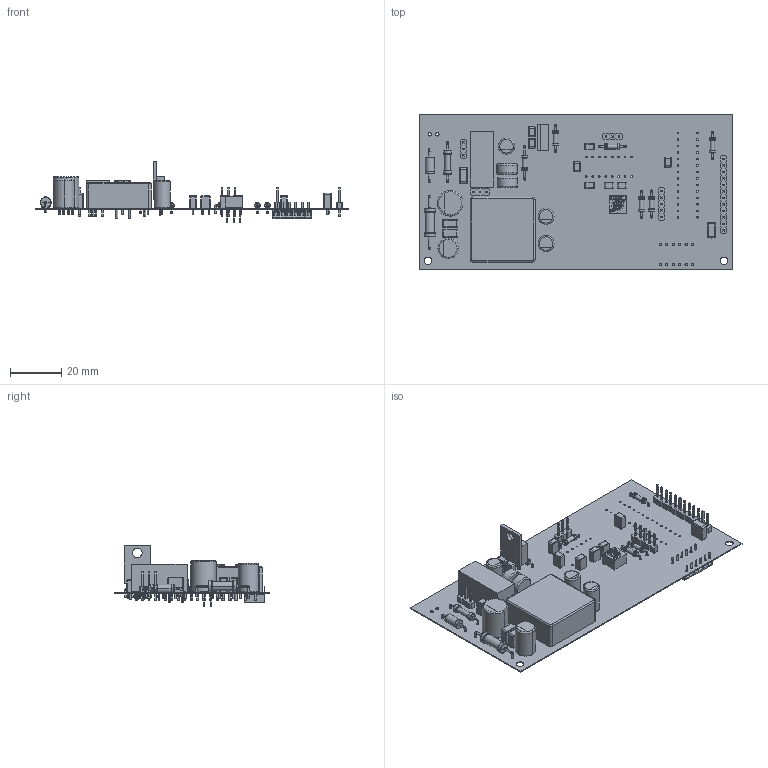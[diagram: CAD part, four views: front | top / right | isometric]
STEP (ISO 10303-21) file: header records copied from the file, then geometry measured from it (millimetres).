
FILE_DESCRIPTION(('Open CASCADE Model'),'2;1');
FILE_NAME('Open CASCADE Shape Model','2025-04-16T20:30:04',('Author'),( 'Open CASCADE'),'Open CASCADE STEP processor 6.8','Open CASCADE 6.8' ,'Unknown');
FILE_SCHEMA(('AUTOMOTIVE_DESIGN { 1 0 10303 214 1 1 1 1 }'));
Length unit declared in the file: millimetre
Products named in the file (59): PCB; Board; VR1; 3362P001XXX0A; U1; TO-220V; J2; header_1x3x2.54TH-V; J1; FB1; axial-0.5; L2; axial-0.8; L1; axial-0.6; D1; DO-204-Hx0.5; M2; S24DE; M1; TMR_4WI; R5; axial-0.4; R4; R3; R2; R1; CN5; header_1x5x2.54TH-V; CN4; CN3; header_1x12x2.54TH-V; CN2; c-5535676-5-a-3d; C21; RAD_0.1x3.8x2.5; C20; C19; C18; C17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
Assembly tree (77 placements, depth 3):
  PCB
    Board
    VR1
      3362P001XXX0A
    U1
      TO-220V
    J2
      header_1x3x2.54TH-V
    J1
      header_1x3x2.54TH-V
    FB1
      axial-0.5
    L2
      axial-0.8
    L1
      axial-0.6
    D1
      DO-204-Hx0.5
    M2
      S24DE
    M1
      TMR_4WI
    R5
      axial-0.4
    R4
      axial-0.4
    R3
      axial-0.4
    R2
      axial-0.4
    R1
      axial-0.4
    CN5
      header_1x5x2.54TH-V
    CN4
      header_1x3x2.54TH-V
    CN3
      header_1x12x2.54TH-V
    CN2
      c-5535676-5-a-3d
    C21
      RAD_0.1x3.8x2.5
    C20
      RAD_0.1x3.8x2.5
    C19
      RAD_0.1x3.8x2.5
    C18
      RAD_0.1x3.8x2.5
    C17
      RAD_0.1x3.8x2.5
    C16
      RAD_0.2x6x3x6
    C15
      RAD_0.1x3.8x2.5
    C14
      RAD_0.1x3.8x2.5
    C13
      RAD_0.1x3.8x2.5
    C12
      RB_2.5x6.3x11
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Bounding box: 123 x 61 x 23.73 mm (x, y, z)
Volume: 17555 mm3; surface area: 25822.1 mm2
Topology: 40 solids, 40 shells, 2483 faces, 6119 edges, 3862 vertices
Faces by surface type: plane 1597, cylinder 603, torus 189, cone 74, revolution 10, bspline 8, sphere 2
Full cylindrical faces by diameter (mm): 0.6 x9, 0.635 x44, 0.8 x17, 0.85 x14, 0.9 x16, 1 x50, 1.2 x13, 1.3 x2, 3 x2, 6.3 x3
Entity records: 66910 total; most frequent: CARTESIAN_POINT 10632, DIRECTION 9727, ORIENTED_EDGE 9690, EDGE_CURVE 4845, LINE 3809, VECTOR 3809, VERTEX_POINT 3100, AXIS2_PLACEMENT_3D 2956
